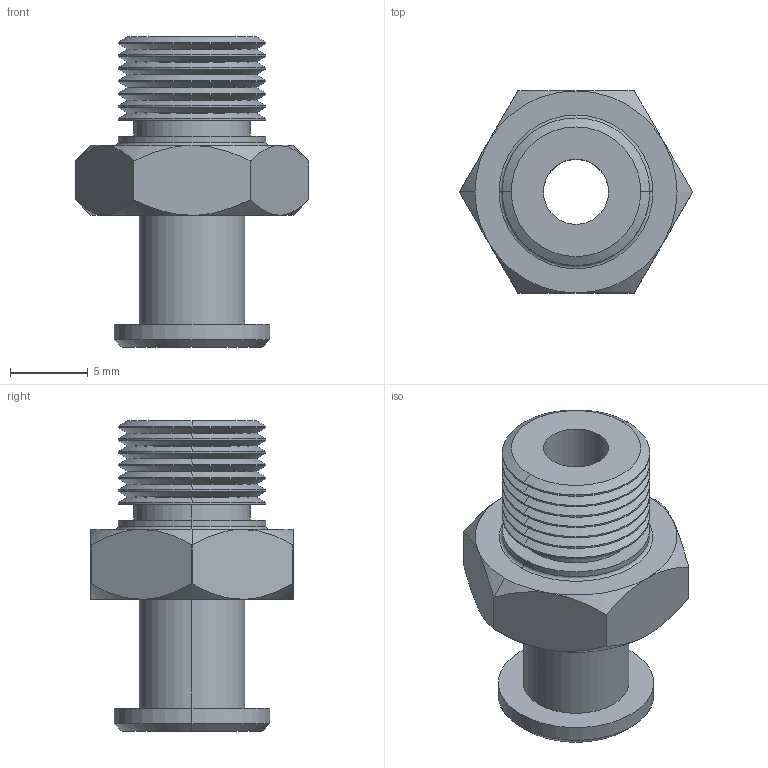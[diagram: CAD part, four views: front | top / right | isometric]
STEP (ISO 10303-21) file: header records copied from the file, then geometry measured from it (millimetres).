
FILE_DESCRIPTION (( 'STEP AP214' ), '1' );
FILE_NAME ('VM07-G18.STEP', '2019-11-14T02:16:23', ( '微软用户' ), ( '微软中国' ), 'SwSTEP 2.0', 'SolidWorks 2016', '' );
FILE_SCHEMA (( 'AUTOMOTIVE_DESIGN' ));
Length unit declared in the file: millimetre
Products named in the file (1): VM07-G18
Bounding box: 15 x 13 x 20 mm (x, y, z)
Volume: 1165.4 mm3; surface area: 1336.1 mm2
Topology: 1 solids, 1 shells, 114 faces, 244 edges, 137 vertices
Faces by surface type: cone 44, cylinder 43, plane 25, torus 2
Entity records: 3177 total; most frequent: CARTESIAN_POINT 656, DIRECTION 565, ORIENTED_EDGE 488, EDGE_CURVE 244, AXIS2_PLACEMENT_3D 230, VERTEX_POINT 137, EDGE_LOOP 121, CIRCLE 115
